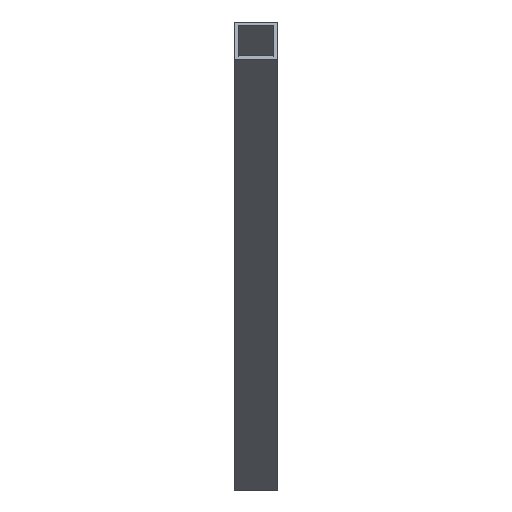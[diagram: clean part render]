
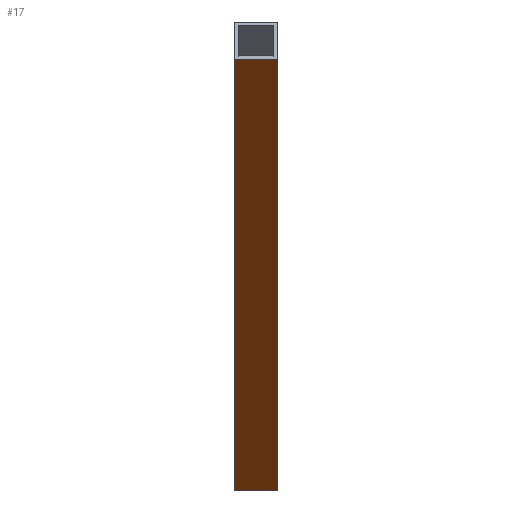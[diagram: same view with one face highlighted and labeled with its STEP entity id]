
A CAD part, front view. The second image highlights one B-rep face of the part: STEP entity #17.
In plain terms, the highlighted planar face has unit normal (0, -0.517, -0.856).
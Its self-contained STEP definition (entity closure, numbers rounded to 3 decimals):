
#17 = ADVANCED_FACE('',(#18),#32,.F.);
#18 = FACE_BOUND('',#19,.F.);
#19 = EDGE_LOOP('',(#20,#55,#83,#111));
#20 = ORIENTED_EDGE('',*,*,#21,.T.);
#21 = EDGE_CURVE('',#22,#24,#26,.T.);
#22 = VERTEX_POINT('',#23);
#23 = CARTESIAN_POINT('',(95.,-777.153,1652.495));
#24 = VERTEX_POINT('',#25);
#25 = CARTESIAN_POINT('',(95.,-1590.414,2143.52));
#26 = SURFACE_CURVE('',#27,(#31,#43),.PCURVE_S1.);
#27 = LINE('',#28,#29);
#28 = CARTESIAN_POINT('',(95.,-777.153,1652.495));
#29 = VECTOR('',#30,1.);
#30 = DIRECTION('',(0.,-0.856,0.517));
#31 = PCURVE('',#32,#37);
#32 = PLANE('',#33);
#33 = AXIS2_PLACEMENT_3D('',#34,#35,#36);
#34 = CARTESIAN_POINT('',(95.,-777.153,1652.495));
#35 = DIRECTION('',(-0.,0.517,0.856));
#36 = DIRECTION('',(1.,0.,0.));
#37 = DEFINITIONAL_REPRESENTATION('',(#38),#42);
#38 = LINE('',#39,#40);
#39 = CARTESIAN_POINT('',(0.,0.));
#40 = VECTOR('',#41,1.);
#41 = DIRECTION('',(0.,-1.));
#42 = ( GEOMETRIC_REPRESENTATION_CONTEXT(2) 
PARAMETRIC_REPRESENTATION_CONTEXT() REPRESENTATION_CONTEXT('2D SPACE',''
  ) );
#43 = PCURVE('',#44,#49);
#44 = PLANE('',#45);
#45 = AXIS2_PLACEMENT_3D('',#46,#47,#48);
#46 = CARTESIAN_POINT('',(95.,-751.309,1695.298));
#47 = DIRECTION('',(1.,0.,0.));
#48 = DIRECTION('',(0.,-0.517,-0.856));
#49 = DEFINITIONAL_REPRESENTATION('',(#50),#54);
#50 = LINE('',#51,#52);
#51 = CARTESIAN_POINT('',(50.,0.));
#52 = VECTOR('',#53,1.);
#53 = DIRECTION('',(0.,-1.));
#54 = ( GEOMETRIC_REPRESENTATION_CONTEXT(2) 
PARAMETRIC_REPRESENTATION_CONTEXT() REPRESENTATION_CONTEXT('2D SPACE',''
  ) );
#55 = ORIENTED_EDGE('',*,*,#56,.T.);
#56 = EDGE_CURVE('',#24,#57,#59,.T.);
#57 = VERTEX_POINT('',#58);
#58 = CARTESIAN_POINT('',(145.,-1590.414,2143.52));
#59 = SURFACE_CURVE('',#60,(#64,#71),.PCURVE_S1.);
#60 = LINE('',#61,#62);
#61 = CARTESIAN_POINT('',(95.,-1590.414,2143.52));
#62 = VECTOR('',#63,1.);
#63 = DIRECTION('',(1.,0.,0.));
#64 = PCURVE('',#32,#65);
#65 = DEFINITIONAL_REPRESENTATION('',(#66),#70);
#66 = LINE('',#67,#68);
#67 = CARTESIAN_POINT('',(0.,-950.));
#68 = VECTOR('',#69,1.);
#69 = DIRECTION('',(1.,0.));
#70 = ( GEOMETRIC_REPRESENTATION_CONTEXT(2) 
PARAMETRIC_REPRESENTATION_CONTEXT() REPRESENTATION_CONTEXT('2D SPACE',''
  ) );
#71 = PCURVE('',#72,#77);
#72 = PLANE('',#73);
#73 = AXIS2_PLACEMENT_3D('',#74,#75,#76);
#74 = CARTESIAN_POINT('',(120.,-1577.492,2164.922));
#75 = DIRECTION('',(-0.,-0.856,0.517));
#76 = DIRECTION('',(0.,-0.517,-0.856));
#77 = DEFINITIONAL_REPRESENTATION('',(#78),#82);
#78 = LINE('',#79,#80);
#79 = CARTESIAN_POINT('',(25.,-25.));
#80 = VECTOR('',#81,1.);
#81 = DIRECTION('',(0.,1.));
#82 = ( GEOMETRIC_REPRESENTATION_CONTEXT(2) 
PARAMETRIC_REPRESENTATION_CONTEXT() REPRESENTATION_CONTEXT('2D SPACE',''
  ) );
#83 = ORIENTED_EDGE('',*,*,#84,.F.);
#84 = EDGE_CURVE('',#85,#57,#87,.T.);
#85 = VERTEX_POINT('',#86);
#86 = CARTESIAN_POINT('',(145.,-777.153,1652.495));
#87 = SURFACE_CURVE('',#88,(#92,#99),.PCURVE_S1.);
#88 = LINE('',#89,#90);
#89 = CARTESIAN_POINT('',(145.,-777.153,1652.495));
#90 = VECTOR('',#91,1.);
#91 = DIRECTION('',(0.,-0.856,0.517));
#92 = PCURVE('',#32,#93);
#93 = DEFINITIONAL_REPRESENTATION('',(#94),#98);
#94 = LINE('',#95,#96);
#95 = CARTESIAN_POINT('',(50.,0.));
#96 = VECTOR('',#97,1.);
#97 = DIRECTION('',(0.,-1.));
#98 = ( GEOMETRIC_REPRESENTATION_CONTEXT(2) 
PARAMETRIC_REPRESENTATION_CONTEXT() REPRESENTATION_CONTEXT('2D SPACE',''
  ) );
#99 = PCURVE('',#100,#105);
#100 = PLANE('',#101);
#101 = AXIS2_PLACEMENT_3D('',#102,#103,#104);
#102 = CARTESIAN_POINT('',(145.,-777.153,1652.495));
#103 = DIRECTION('',(-1.,0.,0.));
#104 = DIRECTION('',(0.,0.517,0.856));
#105 = DEFINITIONAL_REPRESENTATION('',(#106),#110);
#106 = LINE('',#107,#108);
#107 = CARTESIAN_POINT('',(0.,0.));
#108 = VECTOR('',#109,1.);
#109 = DIRECTION('',(0.,-1.));
#110 = ( GEOMETRIC_REPRESENTATION_CONTEXT(2) 
PARAMETRIC_REPRESENTATION_CONTEXT() REPRESENTATION_CONTEXT('2D SPACE',''
  ) );
#111 = ORIENTED_EDGE('',*,*,#112,.F.);
#112 = EDGE_CURVE('',#22,#85,#113,.T.);
#113 = SURFACE_CURVE('',#114,(#118,#125),.PCURVE_S1.);
#114 = LINE('',#115,#116);
#115 = CARTESIAN_POINT('',(95.,-777.153,1652.495));
#116 = VECTOR('',#117,1.);
#117 = DIRECTION('',(1.,0.,0.));
#118 = PCURVE('',#32,#119);
#119 = DEFINITIONAL_REPRESENTATION('',(#120),#124);
#120 = LINE('',#121,#122);
#121 = CARTESIAN_POINT('',(0.,0.));
#122 = VECTOR('',#123,1.);
#123 = DIRECTION('',(1.,0.));
#124 = ( GEOMETRIC_REPRESENTATION_CONTEXT(2) 
PARAMETRIC_REPRESENTATION_CONTEXT() REPRESENTATION_CONTEXT('2D SPACE',''
  ) );
#125 = PCURVE('',#126,#131);
#126 = PLANE('',#127);
#127 = AXIS2_PLACEMENT_3D('',#128,#129,#130);
#128 = CARTESIAN_POINT('',(120.,-764.231,1673.896));
#129 = DIRECTION('',(-0.,-0.856,0.517));
#130 = DIRECTION('',(0.,-0.517,-0.856));
#131 = DEFINITIONAL_REPRESENTATION('',(#132),#136);
#132 = LINE('',#133,#134);
#133 = CARTESIAN_POINT('',(25.,-25.));
#134 = VECTOR('',#135,1.);
#135 = DIRECTION('',(0.,1.));
#136 = ( GEOMETRIC_REPRESENTATION_CONTEXT(2) 
PARAMETRIC_REPRESENTATION_CONTEXT() REPRESENTATION_CONTEXT('2D SPACE',''
  ) );
